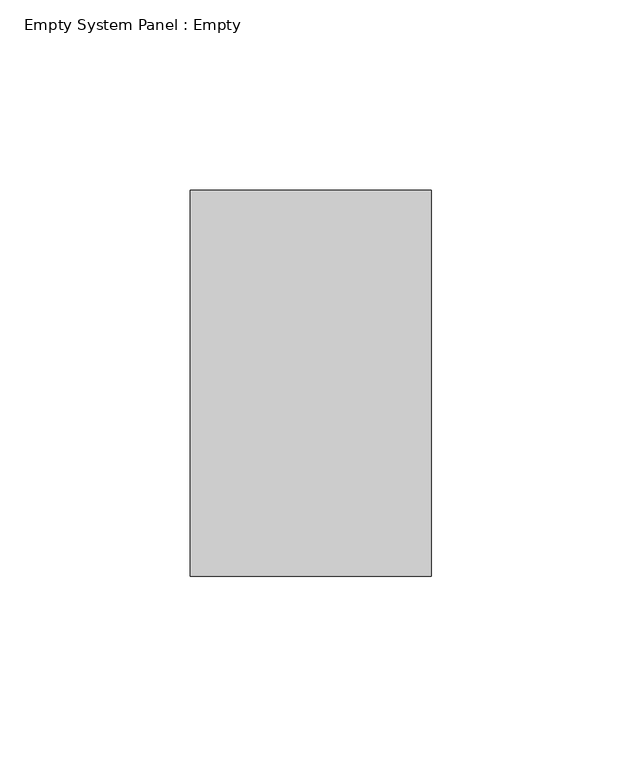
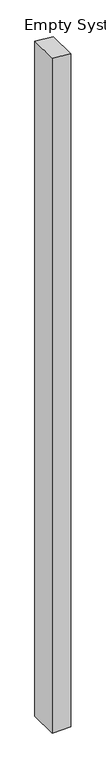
"""IFC4 building model written with IfcOpenShell, lengths in millimetres: plate geometry, Empty System Panel : Empty."""

from ifc_helpers import new_model, si_unit, frame, origin, place, context, project, spatial, polyline, outline, extrude, source, transform, mapped, element, save


def empty_system_panel_empty_7cfd572e(model_context):
    return source(origin(), model_context, "Body", "SweptSolid", [
        extrude(outline(polyline([(0.0, -31.75), (0.0, 31.75), (2435.9552499, 31.75), (2443.0576089, -31.75), (0.0, -31.75)])), frame((0.0, -50.8, 0.0), z_axis=(0.0, 1.0, 0.0), x_axis=(0.0, 0.0, 1.0)), (0.0, 0.0, 1.0), 101.6),
    ])


if __name__ == "__main__":
    model = new_model("IFC4")
    model_context = context("Model", 3, world=origin())
    ifc_project = project(units=[si_unit("LENGTHUNIT", "METRE", prefix="MILLI")], contexts=[model_context])
    site = spatial("IfcSite", under=ifc_project)
    building = spatial("IfcBuilding", under=site)
    placement = place(None, origin())
    empty_system_panel_empty_shape = empty_system_panel_empty_7cfd572e(model_context)
    element("IfcPlate", 1, ObjectType="Empty System Panel : Empty", at=placement, inside=building, context=model_context, shape_type="MappedRepresentation", body=[
        mapped(empty_system_panel_empty_shape, transform((0.0, 0.0, 0.0), x_axis=(1.0, 0.0, 0.0), y_axis=(0.0, 1.0, 0.0), z_axis=(0.0, 0.0, 1.0))),
    ])
    save(model, "model.ifc")
